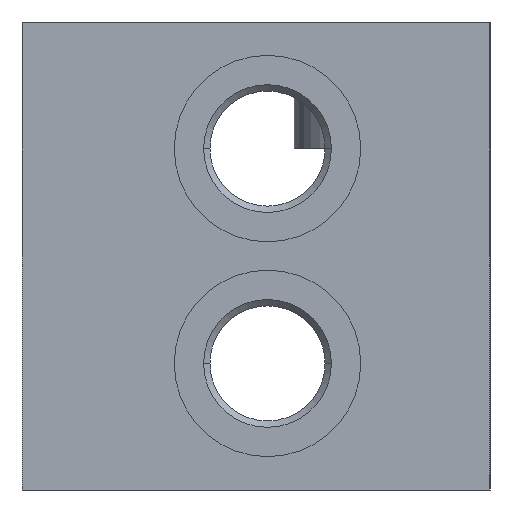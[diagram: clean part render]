
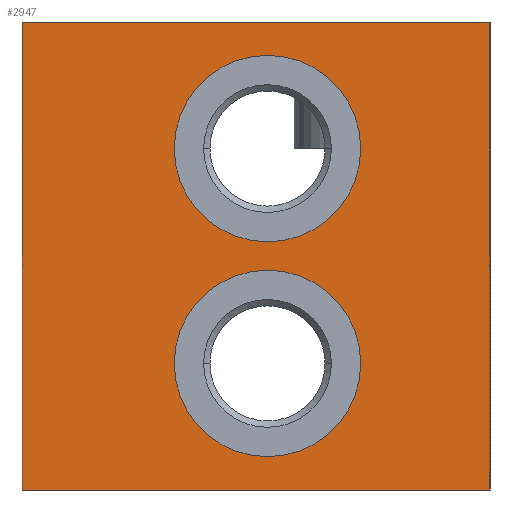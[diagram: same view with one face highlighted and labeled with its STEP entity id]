
A CAD part, left-side view. The second image highlights one B-rep face of the part: STEP entity #2947.
In plain terms, the highlighted planar face has unit normal (-1, 0, 0).
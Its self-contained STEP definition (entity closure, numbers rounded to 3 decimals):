
#25=DIRECTION('',(0.,-1.,0.));
#26=VECTOR('',#25,61.);
#27=CARTESIAN_POINT('',(0.,61.,0.));
#28=LINE('',#27,#26);
#77=DIRECTION('',(0.,0.,-1.));
#78=VECTOR('',#77,61.);
#79=CARTESIAN_POINT('',(0.,0.,0.));
#80=LINE('',#79,#78);
#391=DIRECTION('',(0.,0.,-1.));
#392=VECTOR('',#391,61.);
#393=CARTESIAN_POINT('',(0.,61.,0.));
#394=LINE('',#393,#392);
#395=CARTESIAN_POINT('',(0.,29.,-44.5));
#396=DIRECTION('',(1.,0.,0.));
#397=DIRECTION('',(0.,-1.,0.));
#398=AXIS2_PLACEMENT_3D('',#395,#396,#397);
#400=CARTESIAN_POINT('',(0.,29.,-44.5));
#401=DIRECTION('',(1.,0.,0.));
#402=DIRECTION('',(0.,1.,0.));
#403=AXIS2_PLACEMENT_3D('',#400,#401,#402);
#405=CARTESIAN_POINT('',(0.,29.,-16.5));
#406=DIRECTION('',(1.,0.,0.));
#407=DIRECTION('',(0.,-1.,0.));
#408=AXIS2_PLACEMENT_3D('',#405,#406,#407);
#410=CARTESIAN_POINT('',(0.,29.,-16.5));
#411=DIRECTION('',(1.,0.,0.));
#412=DIRECTION('',(0.,1.,0.));
#413=AXIS2_PLACEMENT_3D('',#410,#411,#412);
#427=DIRECTION('',(0.,-1.,0.));
#428=VECTOR('',#427,61.);
#429=CARTESIAN_POINT('',(0.,61.,-61.));
#430=LINE('',#429,#428);
#2236=CARTESIAN_POINT('',(0.,0.,0.));
#2238=VERTEX_POINT('',#2236);
#2242=CARTESIAN_POINT('',(0.,61.,0.));
#2243=VERTEX_POINT('',#2242);
#2244=CARTESIAN_POINT('',(0.,0.,-61.));
#2246=VERTEX_POINT('',#2244);
#2250=CARTESIAN_POINT('',(0.,61.,-61.));
#2251=VERTEX_POINT('',#2250);
#2264=CARTESIAN_POINT('',(0.,16.85,-44.5));
#2265=CARTESIAN_POINT('',(0.,41.15,-44.5));
#2266=VERTEX_POINT('',#2264);
#2267=VERTEX_POINT('',#2265);
#2280=CARTESIAN_POINT('',(0.,16.85,-16.5));
#2281=CARTESIAN_POINT('',(0.,41.15,-16.5));
#2282=VERTEX_POINT('',#2280);
#2283=VERTEX_POINT('',#2281);
#2923=CARTESIAN_POINT('',(0.,61.,0.));
#2924=DIRECTION('',(-1.,0.,0.));
#2925=DIRECTION('',(0.,-1.,0.));
#2926=AXIS2_PLACEMENT_3D('',#2923,#2924,#2925);
#2927=PLANE('',#2926);
#2928=ORIENTED_EDGE('',*,*,#2727,.T.);
#2929=ORIENTED_EDGE('',*,*,#2770,.T.);
#2931=ORIENTED_EDGE('',*,*,#2930,.F.);
#2932=ORIENTED_EDGE('',*,*,#2849,.F.);
#2933=EDGE_LOOP('',(#2928,#2929,#2931,#2932));
#2934=FACE_OUTER_BOUND('',#2933,.F.);
#2936=ORIENTED_EDGE('',*,*,#2935,.F.);
#2938=ORIENTED_EDGE('',*,*,#2937,.F.);
#2939=EDGE_LOOP('',(#2936,#2938));
#2940=FACE_BOUND('',#2939,.F.);
#2942=ORIENTED_EDGE('',*,*,#2941,.F.);
#2944=ORIENTED_EDGE('',*,*,#2943,.F.);
#2945=EDGE_LOOP('',(#2942,#2944));
#2946=FACE_BOUND('',#2945,.F.);
#399=CIRCLE('',#398,12.15);
#404=CIRCLE('',#403,12.15);
#409=CIRCLE('',#408,12.15);
#414=CIRCLE('',#413,12.15);
#2727=EDGE_CURVE('',#2243,#2238,#28,.T.);
#2770=EDGE_CURVE('',#2238,#2246,#80,.T.);
#2849=EDGE_CURVE('',#2243,#2251,#394,.T.);
#2930=EDGE_CURVE('',#2251,#2246,#430,.T.);
#2935=EDGE_CURVE('',#2266,#2267,#399,.T.);
#2937=EDGE_CURVE('',#2267,#2266,#404,.T.);
#2941=EDGE_CURVE('',#2282,#2283,#409,.T.);
#2943=EDGE_CURVE('',#2283,#2282,#414,.T.);
#2947=ADVANCED_FACE('',(#2934,#2940,#2946),#2927,.T.);
